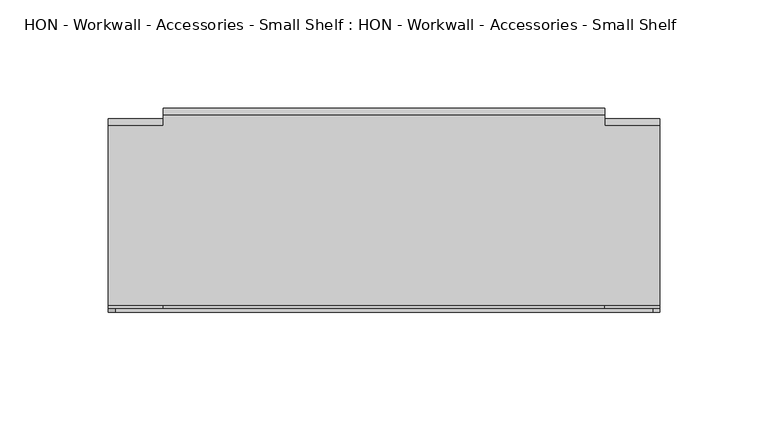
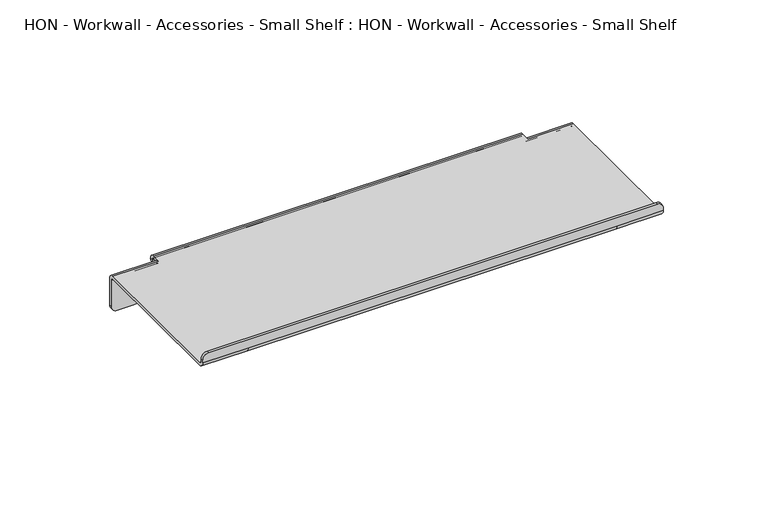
"""IFC4 building model written with IfcOpenShell, lengths in millimetres: furniture geometry, HON - Workwall - Accessories - Small Shelf : HON - Workwall - Accessories - Small Shelf."""

from ifc_helpers import new_model, si_unit, frame, origin, place, context, project, spatial, polyline, circle_curve, source, transform, mapped, element, save
from ifc_brep_helpers import plane_surface, cylinder_surface, revolved_surface, advanced_brep


def hon_workwall_accessories_small_shelf_hon_workwall_bf0bc41e(model_context):
    return source(origin(), model_context, "Body", "AdvancedBrep", [
        advanced_brep(
        [(132.5980299, -5.2324, 21.9075), (132.5980299, -87.9983, 21.9075), (132.5980299, -89.5858, 23.495), (132.5980299, -89.5858, 25.0825), (132.5980299, -91.1733, 25.0825), (132.5980299, -91.1733, 23.495), (132.5980299, -87.9983, 20.32), (132.5980299, -5.2324, 20.32), (132.5980299, -3.6449, 18.7325), (132.5980299, -3.6449, 3.175), (132.5980299, -2.0574, 3.175), (132.5980299, -2.0574, 18.7325), (107.3250299, -3.6449, 18.7325), (107.3250299, -5.2324, 20.32), (107.3250299, -2.4827693, 20.32), (107.3250299, -2.0574, 18.7325), (107.3250299, -2.0574, 15.5560218), (107.3250299, -2.0574, 3.175), (107.3250299, -3.6449, 3.175), (107.3250299, -3.6449, 15.5560218), (107.3250299, -5.2324, 21.9075), (107.3250299, -0.4318, 21.9075), (-96.1289701, -0.4318, 21.9075), (-96.1289701, -5.2324, 21.9075), (-121.4019701, -5.2324, 21.9075), (-121.4019701, -87.9983, 21.9075), (-96.1289701, -87.9983, 21.9075), (107.3250299, -87.9983, 21.9075), (107.3250299, -89.5858, 23.495), (-96.1289701, -89.5858, 23.495), (-121.4019701, -89.5858, 23.495), (-121.4019701, -89.5858, 25.0825), (-118.2269701, -89.5858, 28.2575), (129.4230299, -89.5858, 28.2575), (107.3250299, -91.1733, 23.495), (129.4230299, -91.1733, 28.2575), (-118.2269701, -91.1733, 28.2575), (-121.4019701, -91.1733, 25.0825), (-121.4019701, -91.1733, 23.495), (-96.1289701, -91.1733, 23.495), (107.3250299, -87.9983, 20.32), (-96.1289701, -87.9983, 20.32), (-121.4019701, -87.9983, 20.32), (-121.4019701, -5.2324, 20.32), (-96.1289701, -5.2324, 20.32), (-96.1289701, -2.4827693, 20.32), (-96.1289701, -0.4318, 20.32), (107.3250299, -0.4318, 20.32), (110.5000299, -3.6449, 0.0), (129.4230299, -3.6449, 0.0), (110.5000299, -2.0574, 0.0), (129.4230299, -2.0574, 0.0), (-121.4019701, -3.6449, 3.175), (-121.4019701, -2.0574, 3.175), (-118.2269701, -2.0574, 0.0), (-118.2269701, -3.6449, 0.0), (-96.1289701, -2.0574, 3.175), (-96.1289701, -3.6449, 3.175), (-99.3039701, -3.6449, 0.0), (-99.3039701, -2.0574, 0.0), (-96.1289701, 1.1557, 18.7310218), (-96.1289701, 2.7432, 18.7310218), (-93.0508417, 2.7432, 15.5575), (-93.0508417, 1.1557, 15.5575), (107.3250299, 2.7432, 18.7310218), (107.3250299, 1.1557, 18.7310218), (104.2469015, 1.1557, 15.5575), (104.2469015, 2.7432, 15.5575), (-121.4019701, -2.0574, 18.7325), (-121.4019701, -3.6449, 18.7325), (-96.1289701, -3.6449, 18.7325), (-96.1289701, -3.6449, 15.5560218), (-96.1289701, -2.0574, 15.5560218), (-96.1289701, -2.0574, 18.7325)],
        [
            (0, 1),
            (1, 2, circle_curve(frame((132.5980299, -87.9983, 23.495), z_axis=(-1.0, 0.0, 0.0), x_axis=(0.0, 1.0, 0.0)), 1.5875)),
            (2, 3),
            (3, 4),
            (4, 5),
            (5, 6, circle_curve(frame((132.5980299, -87.9983, 23.495), z_axis=(1.0, 0.0, 0.0), x_axis=(0.0, 1.0, 0.0)), 3.175)),
            (6, 7),
            (7, 8, circle_curve(frame((132.5980299, -5.2324, 18.7325), z_axis=(-1.0, 0.0, 0.0), x_axis=(0.0, 1.0, 0.0)), 1.5875)),
            (8, 9),
            (9, 10),
            (10, 11),
            (11, 0, circle_curve(frame((132.5980299, -5.2324, 18.7325), z_axis=(1.0, 0.0, 0.0), x_axis=(0.0, 1.0, 0.0)), 3.175)),
            (12, 13, circle_curve(frame((107.3250299, -5.2324, 18.7325), z_axis=(1.0, 0.0, 0.0), x_axis=(0.0, 1.0, 0.0)), 1.5875)),
            (13, 14),
            (14, 15, circle_curve(frame((107.3250299, -5.2324, 18.7325), z_axis=(-1.0, 0.0, 0.0), x_axis=(0.0, 1.0, 0.0)), 3.175)),
            (15, 16),
            (16, 17),
            (17, 18),
            (18, 19),
            (19, 12),
            (0, 20),
            (20, 21),
            (21, 22),
            (22, 23),
            (23, 24),
            (24, 25),
            (25, 26),
            (26, 27),
            (27, 1),
            (27, 28, circle_curve(frame((107.3250299, -87.9983, 23.495), z_axis=(-1.0, 0.0, 0.0), x_axis=(0.0, 1.0, 0.0)), 1.5875)),
            (28, 2),
            (28, 29),
            (29, 30),
            (30, 31),
            (31, 32, circle_curve(frame((-118.2269701, -89.5858, 25.0825), z_axis=(0.0, 1.0, 0.0), x_axis=(1.0, 0.0, 0.0)), 3.175)),
            (32, 33),
            (33, 3, circle_curve(frame((129.4230299, -89.5858, 25.0825), z_axis=(0.0, 1.0, 0.0), x_axis=(1.0, 0.0, 0.0)), 3.175)),
            (34, 5),
            (4, 35, circle_curve(frame((129.4230299, -91.1733, 25.0825), z_axis=(0.0, -1.0, 0.0), x_axis=(1.0, 0.0, 0.0)), 3.175)),
            (35, 36),
            (36, 37, circle_curve(frame((-118.2269701, -91.1733, 25.0825), z_axis=(0.0, -1.0, 0.0), x_axis=(1.0, 0.0, 0.0)), 3.175)),
            (37, 38),
            (38, 39),
            (39, 34),
            (34, 40, circle_curve(frame((107.3250299, -87.9983, 23.495), z_axis=(1.0, 0.0, 0.0), x_axis=(0.0, 1.0, 0.0)), 3.175)),
            (40, 6),
            (40, 41),
            (41, 42),
            (42, 43),
            (43, 44),
            (44, 45),
            (45, 46),
            (46, 47),
            (47, 14),
            (13, 7),
            (12, 8),
            (18, 48, circle_curve(frame((110.5000299, -3.6449, 3.175), z_axis=(0.0, -1.0, 0.0), x_axis=(1.0, 0.0, 0.0)), 3.175)),
            (48, 49),
            (49, 9, circle_curve(frame((129.4230299, -3.6449, 3.175), z_axis=(0.0, -1.0, 0.0), x_axis=(1.0, 0.0, 0.0)), 3.175)),
            (48, 50),
            (50, 51),
            (51, 49),
            (15, 11),
            (10, 51, circle_curve(frame((129.4230299, -2.0574, 3.175), z_axis=(0.0, 1.0, 0.0), x_axis=(1.0, 0.0, 0.0)), 3.175)),
            (50, 17, circle_curve(frame((110.5000299, -2.0574, 3.175), z_axis=(0.0, 1.0, 0.0), x_axis=(1.0, 0.0, 0.0)), 3.175)),
            (14, 20, circle_curve(frame((107.3250299, -5.2324, 18.7325), z_axis=(1.0, 0.0, 0.0), x_axis=(0.0, 1.0, 0.0)), 3.175)),
            (36, 32),
            (31, 37),
            (35, 33),
            (52, 53),
            (53, 54, circle_curve(frame((-118.2269701, -2.0574, 3.175), z_axis=(0.0, -1.0, 0.0), x_axis=(1.0, 0.0, 0.0)), 3.175)),
            (54, 55),
            (55, 52, circle_curve(frame((-118.2269701, -3.6449, 3.175), z_axis=(0.0, 1.0, 0.0), x_axis=(1.0, 0.0, 0.0)), 3.175)),
            (56, 57),
            (57, 58, circle_curve(frame((-99.3039701, -3.6449, 3.175), z_axis=(0.0, 1.0, 0.0), x_axis=(1.0, 0.0, 0.0)), 3.175)),
            (58, 59),
            (59, 56, circle_curve(frame((-99.3039701, -2.0574, 3.175), z_axis=(0.0, -1.0, 0.0), x_axis=(1.0, 0.0, 0.0)), 3.175)),
            (60, 61),
            (61, 62, circle_curve(frame((-92.9539701, 2.7432, 18.7310218), z_axis=(0.0, -1.0, 0.0), x_axis=(1.0, 0.0, 0.0)), 3.175)),
            (62, 63),
            (63, 60, circle_curve(frame((-92.9539701, 1.1557, 18.7310218), z_axis=(0.0, 1.0, 0.0), x_axis=(1.0, 0.0, 0.0)), 3.175)),
            (64, 65),
            (65, 66, circle_curve(frame((104.1500299, 1.1557, 18.7310218), z_axis=(0.0, 1.0, 0.0), x_axis=(1.0, 0.0, 0.0)), 3.175)),
            (66, 67),
            (67, 64, circle_curve(frame((104.1500299, 2.7432, 18.7310218), z_axis=(0.0, -1.0, 0.0), x_axis=(1.0, 0.0, 0.0)), 3.175)),
            (47, 65, circle_curve(frame((107.3250299, -0.4318, 18.7325), z_axis=(-1.0, 0.0, 0.0), x_axis=(0.0, 1.0, 0.0)), 1.5875)),
            (64, 21, circle_curve(frame((107.3250299, -0.4318, 18.7325), z_axis=(1.0, 0.0, 0.0), x_axis=(0.0, 1.0, 0.0)), 3.175)),
            (22, 61, circle_curve(frame((-96.1289701, -0.4318, 18.7325), z_axis=(-1.0, 0.0, 0.0), x_axis=(0.0, 1.0, 0.0)), 3.175)),
            (60, 46, circle_curve(frame((-96.1289701, -0.4318, 18.7325), z_axis=(1.0, 0.0, 0.0), x_axis=(0.0, 1.0, 0.0)), 1.5875)),
            (45, 23, circle_curve(frame((-96.1289701, -5.2324, 18.7325), z_axis=(1.0, 0.0, 0.0), x_axis=(0.0, 1.0, 0.0)), 3.175)),
            (26, 29, circle_curve(frame((-96.1289701, -87.9983, 23.495), z_axis=(-1.0, 0.0, 0.0), x_axis=(0.0, 1.0, 0.0)), 1.5875)),
            (39, 41, circle_curve(frame((-96.1289701, -87.9983, 23.495), z_axis=(1.0, 0.0, 0.0), x_axis=(0.0, 1.0, 0.0)), 3.175)),
            (60, 65),
            (63, 66),
            (61, 64),
            (67, 62),
            (24, 68, circle_curve(frame((-121.4019701, -5.2324, 18.7325), z_axis=(-1.0, 0.0, 0.0), x_axis=(0.0, 1.0, 0.0)), 3.175)),
            (68, 53),
            (52, 69),
            (69, 43, circle_curve(frame((-121.4019701, -5.2324, 18.7325), z_axis=(1.0, 0.0, 0.0), x_axis=(0.0, 1.0, 0.0)), 1.5875)),
            (42, 38, circle_curve(frame((-121.4019701, -87.9983, 23.495), z_axis=(-1.0, 0.0, 0.0), x_axis=(0.0, 1.0, 0.0)), 3.175)),
            (30, 25, circle_curve(frame((-121.4019701, -87.9983, 23.495), z_axis=(1.0, 0.0, 0.0), x_axis=(0.0, 1.0, 0.0)), 1.5875)),
            (44, 70, circle_curve(frame((-96.1289701, -5.2324, 18.7325), z_axis=(-1.0, 0.0, 0.0), x_axis=(0.0, 1.0, 0.0)), 1.5875)),
            (70, 71),
            (71, 57),
            (56, 72),
            (72, 73),
            (73, 45, circle_curve(frame((-96.1289701, -5.2324, 18.7325), z_axis=(1.0, 0.0, 0.0), x_axis=(0.0, 1.0, 0.0)), 3.175)),
            (69, 70),
            (55, 58),
            (54, 59),
            (68, 73),
        ],
        [
            plane_surface(frame((132.5980299, -50.8, 21.9075), z_axis=(1.0, 0.0, 0.0), x_axis=(0.0, -1.0, 0.0))),
            plane_surface(frame((107.3250299, -50.8, 21.9075), z_axis=(-1.0, 0.0, 0.0), x_axis=(0.0, 1.0, 0.0))),
            plane_surface(frame((132.5980299, -5.2324, 21.9075), z_axis=(0.0, 0.0, 1.0), x_axis=(-1.0, 0.0, 0.0))),
            revolved_surface(polyline([(107.3250299, -86.4108, 23.495), (132.5980299, -86.4108, 23.495)]), (107.3250299, -87.9983, 23.495), (-1.0, 0.0, 0.0)),
            plane_surface(frame((132.5980299, -89.5858, 23.495), z_axis=(0.0, 1.0, 0.0), x_axis=(-1.0, 0.0, 0.0))),
            plane_surface(frame((132.5980299, -91.1733, 29.7336597), z_axis=(0.0, -1.0, 0.0), x_axis=(-1.0, 0.0, 0.0))),
            cylinder_surface(frame((107.3250299, -87.9983, 23.495), z_axis=(1.0, 0.0, 0.0), x_axis=(0.0, 1.0, 0.0)), 3.175),
            plane_surface(frame((132.5980299, -87.9983, 20.32), z_axis=(0.0, 0.0, -1.0), x_axis=(-1.0, 0.0, 0.0))),
            revolved_surface(polyline([(107.3250299, -3.6449000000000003, 18.7325), (132.5980299, -3.6449000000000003, 18.7325)]), (107.3250299, -5.2324, 18.7325), (-1.0, 0.0, 0.0)),
            plane_surface(frame((132.5980299, -3.6449, 18.7325), z_axis=(0.0, -1.0, 0.0), x_axis=(-1.0, 0.0, 0.0))),
            plane_surface(frame((132.5980299, -3.6449, 0.0), z_axis=(0.0, 0.0, -1.0), x_axis=(-1.0, 0.0, 0.0))),
            plane_surface(frame((132.5980299, -2.0574, 0.0), z_axis=(0.0, 1.0, 0.0), x_axis=(-1.0, 0.0, 0.0))),
            cylinder_surface(frame((107.3250299, -5.2324, 18.7325), z_axis=(1.0, 0.0, 0.0), x_axis=(0.0, 1.0, 0.0)), 3.175),
            cylinder_surface(frame((-118.2269701, 25.4, 25.0825), z_axis=(0.0, 1.0, 0.0), x_axis=(1.0, 0.0, 0.0)), 3.175),
            plane_surface(frame((-118.2269701, -101.6, 28.2575), z_axis=(0.0, 0.0, 1.0), x_axis=(0.0, 1.0, 0.0))),
            cylinder_surface(frame((129.4230299, 25.4, 25.0825), z_axis=(0.0, 1.0, 0.0), x_axis=(1.0, 0.0, 0.0)), 3.175),
            cylinder_surface(frame((-118.2269701, 25.4, 3.175), z_axis=(0.0, 1.0, 0.0), x_axis=(1.0, 0.0, 0.0)), 3.175),
            cylinder_surface(frame((129.4230299, 25.4, 3.175), z_axis=(0.0, 1.0, 0.0), x_axis=(1.0, 0.0, 0.0)), 3.175),
            cylinder_surface(frame((-99.3039701, 0.0, 3.175), z_axis=(0.0, 1.0, 0.0), x_axis=(1.0, 0.0, 0.0)), 3.175),
            cylinder_surface(frame((-92.9539701, 0.0, 18.7310218), z_axis=(0.0, 1.0, 0.0), x_axis=(1.0, 0.0, 0.0)), 3.175),
            cylinder_surface(frame((110.5000299, 0.0, 3.175), z_axis=(0.0, 1.0, 0.0), x_axis=(1.0, 0.0, 0.0)), 3.175),
            cylinder_surface(frame((104.1500299, 0.0, 18.7310218), z_axis=(0.0, 1.0, 0.0), x_axis=(1.0, 0.0, 0.0)), 3.175),
            plane_surface(frame((107.3250299, -50.8, 21.9075), z_axis=(1.0, 0.0, 0.0), x_axis=(0.0, -1.0, 0.0))),
            plane_surface(frame((-96.1289701, -50.8, 21.9075), z_axis=(-1.0, 0.0, 0.0), x_axis=(0.0, 1.0, 0.0))),
            revolved_surface(polyline([(-96.1289701, -86.4108, 23.495), (107.3250299, -86.4108, 23.495)]), (-96.1289701, -87.9983, 23.495), (-1.0, 0.0, 0.0)),
            cylinder_surface(frame((-96.1289701, -87.9983, 23.495), z_axis=(1.0, 0.0, 0.0), x_axis=(0.0, 1.0, 0.0)), 3.175),
            revolved_surface(polyline([(-96.1289701, 1.1557, 18.7325), (107.3250299, 1.1557, 18.7325)]), (-96.1289701, -0.4318, 18.7325), (-1.0, 0.0, 0.0)),
            plane_surface(frame((107.3250299, 1.1557, 18.7325), z_axis=(0.0, -1.0, 0.0), x_axis=(-1.0, 0.0, 0.0))),
            plane_surface(frame((107.3250299, 2.7432, 15.5575), z_axis=(0.0, 1.0, 0.0), x_axis=(-1.0, 0.0, 0.0))),
            cylinder_surface(frame((-96.1289701, -0.4318, 18.7325), z_axis=(1.0, 0.0, 0.0), x_axis=(0.0, 1.0, 0.0)), 3.175),
            plane_surface(frame((107.3250299, 1.1557, 15.5575), z_axis=(0.0, 0.0, -1.0), x_axis=(-1.0, 0.0, 0.0))),
            plane_surface(frame((-121.4019701, -2.0574, 18.7325), z_axis=(-1.0, 0.0, 0.0), x_axis=(0.0, 0.0, -1.0))),
            plane_surface(frame((-96.1289701, -2.0574, 18.7325), z_axis=(1.0, 0.0, 0.0), x_axis=(0.0, 0.0, 1.0))),
            revolved_surface(polyline([(-96.1289701, -86.4108, 23.495), (-121.4019701, -86.4108, 23.495)]), (-96.1289701, -87.9983, 23.495), (1.0, 0.0, 0.0)),
            cylinder_surface(frame((-96.1289701, -87.9983, 23.495), z_axis=(-1.0, 0.0, 0.0), x_axis=(0.0, 1.0, 0.0)), 3.175),
            revolved_surface(polyline([(-96.1289701, -3.6449000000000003, 18.7325), (-121.4019701, -3.6449000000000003, 18.7325)]), (-96.1289701, -5.2324, 18.7325), (1.0, 0.0, 0.0)),
            plane_surface(frame((-121.4019701, -3.6449, 0.0), z_axis=(0.0, -1.0, 0.0), x_axis=(1.0, 0.0, 0.0))),
            plane_surface(frame((-121.4019701, -2.0574, 0.0), z_axis=(0.0, 0.0, -1.0), x_axis=(1.0, 0.0, 0.0))),
            plane_surface(frame((-121.4019701, -2.0574, 18.7325), z_axis=(0.0, 1.0, 0.0), x_axis=(1.0, 0.0, 0.0))),
            cylinder_surface(frame((-96.1289701, -5.2324, 18.7325), z_axis=(-1.0, 0.0, 0.0), x_axis=(0.0, 1.0, 0.0)), 3.175),
        ],
        [
            (0, [[1, 2, 3, 4, 5, 6, 7, 8, 9, 10, 11, 12]]),
            (1, [[13, 14, 15, 16, 17, 18, 19, 20]]),
            (2, [[-1, 21, 22, 23, 24, 25, 26, 27, 28, 29]]),
            (3, [[-2, -29, 30, 31]]),
            (4, [[-31, 32, 33, 34, 35, 36, 37, -3]]),
            (5, [[38, -5, 39, 40, 41, 42, 43, 44]]),
            (6, [[-6, -38, 45, 46]]),
            (7, [[-7, -46, 47, 48, 49, 50, 51, 52, 53, 54, -14, 55]]),
            (8, [[-8, -55, -13, 56]]),
            (9, [[-56, -20, -19, 57, 58, 59, -9]]),
            (10, [[-58, 60, 61, 62]]),
            (11, [[63, -11, 64, -61, 65, -17, -16]]),
            (12, [[-12, -63, -15, 66, -21]]),
            (13, [[67, -35, 68, -41]]),
            (14, [[-67, -40, 69, -36]]),
            (15, [[-69, -39, -4, -37]]),
            (16, [[70, 71, 72, 73]]),
            (17, [[-10, -59, -62, -64]]),
            (18, [[74, 75, 76, 77]]),
            (19, [[78, 79, 80, 81]]),
            (20, [[-18, -65, -60, -57]]),
            (21, [[82, 83, 84, 85]]),
            (22, [[86, -82, 87, -22, -66, -54]]),
            (23, [[88, -78, 89, -52, 90, -24]]),
            (24, [[-28, 91, -32, -30]]),
            (25, [[-44, 92, -47, -45]]),
            (26, [[-86, -53, -89, 93]]),
            (27, [[-93, -81, 94, -83]]),
            (28, [[95, -85, 96, -79]]),
            (29, [[-87, -95, -88, -23]]),
            (30, [[-96, -84, -94, -80]]),
            (31, [[97, 98, -70, 99, 100, -49, 101, -42, -68, -34, 102, -26]]),
            (32, [[103, 104, 105, -74, 106, 107, 108, -51]]),
            (33, [[-102, -33, -91, -27]]),
            (34, [[-101, -48, -92, -43]]),
            (35, [[-100, 109, -103, -50]]),
            (36, [[-109, -99, -73, 110, -75, -105, -104]]),
            (37, [[-110, -72, 111, -76]]),
            (38, [[112, -107, -106, -77, -111, -71, -98]]),
            (39, [[-97, -25, -90, -108, -112]]),
        ],
    ),
    ])


if __name__ == "__main__":
    model = new_model("IFC4")
    model_context = context("Model", 3, world=origin())
    ifc_project = project(units=[si_unit("LENGTHUNIT", "METRE", prefix="MILLI")], contexts=[model_context])
    site = spatial("IfcSite", under=ifc_project)
    building = spatial("IfcBuilding", under=site)
    placement = place(None, origin())
    hon_workwall_accessories_small_shelf_hon_workwall_shape = hon_workwall_accessories_small_shelf_hon_workwall_bf0bc41e(model_context)
    element("IfcFurniture", 1, ObjectType="HON - Workwall - Accessories - Small Shelf : HON - Workwall - Accessories - Small Shelf", at=placement, inside=building, context=model_context, shape_type="MappedRepresentation", body=[
        mapped(hon_workwall_accessories_small_shelf_hon_workwall_shape, transform((0.0, 0.0, 0.0), x_axis=(1.0, 0.0, 0.0), y_axis=(0.0, 1.0, 0.0), z_axis=(0.0, 0.0, 1.0))),
    ])
    save(model, "model.ifc")
